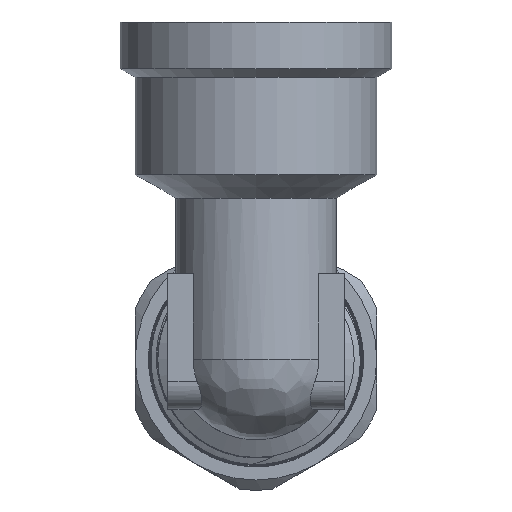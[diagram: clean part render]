
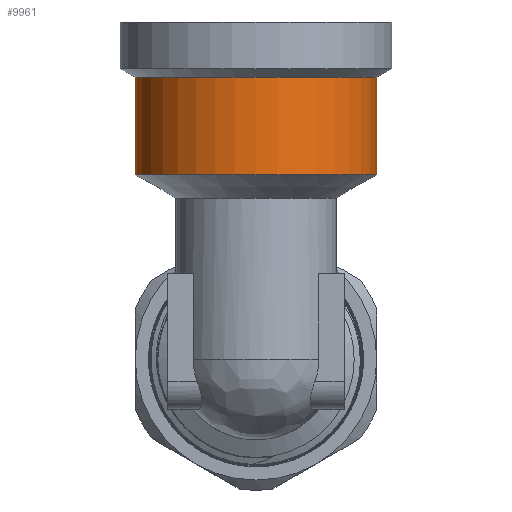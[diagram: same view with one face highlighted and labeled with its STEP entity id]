
A CAD part, front view. The second image highlights one B-rep face of the part: STEP entity #9961.
In plain terms, the highlighted cylindrical face has radius 12 mm (diameter 24 mm), a full revolution.
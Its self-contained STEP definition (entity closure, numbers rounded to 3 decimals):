
#1238=CYLINDRICAL_SURFACE('',#10649,12.);
#1340=FACE_OUTER_BOUND('',#1921,.T.);
#1921=EDGE_LOOP('',(#6791,#6792,#6793,#6794,#6795,#6796));
#2556=LINE('',#13148,#3215);
#3215=VECTOR('',#11286,12.);
#3885=CIRCLE('',#10650,12.);
#3886=CIRCLE('',#10651,12.);
#3887=CIRCLE('',#10652,12.);
#3888=CIRCLE('',#10653,12.);
#4141=VERTEX_POINT('',#13143);
#4142=VERTEX_POINT('',#13144);
#4143=VERTEX_POINT('',#13147);
#4144=VERTEX_POINT('',#13149);
#5204=EDGE_CURVE('',#4141,#4142,#3885,.T.);
#5205=EDGE_CURVE('',#4142,#4141,#3886,.T.);
#5206=EDGE_CURVE('',#4142,#4143,#2556,.T.);
#5207=EDGE_CURVE('',#4143,#4144,#3887,.T.);
#5208=EDGE_CURVE('',#4144,#4143,#3888,.T.);
#6791=ORIENTED_EDGE('',*,*,#5204,.F.);
#6792=ORIENTED_EDGE('',*,*,#5205,.F.);
#6793=ORIENTED_EDGE('',*,*,#5206,.T.);
#6794=ORIENTED_EDGE('',*,*,#5207,.T.);
#6795=ORIENTED_EDGE('',*,*,#5208,.T.);
#6796=ORIENTED_EDGE('',*,*,#5206,.F.);
#9961=ADVANCED_FACE('',(#1340),#1238,.T.);
#10649=AXIS2_PLACEMENT_3D('',#13142,#11280,#11281);
#10650=AXIS2_PLACEMENT_3D('',#13145,#11282,#11283);
#10651=AXIS2_PLACEMENT_3D('',#13146,#11284,#11285);
#10652=AXIS2_PLACEMENT_3D('',#13150,#11287,#11288);
#10653=AXIS2_PLACEMENT_3D('',#13151,#11289,#11290);
#11280=DIRECTION('center_axis',(0.,0.,1.));
#11281=DIRECTION('ref_axis',(0.,-1.,0.));
#11282=DIRECTION('center_axis',(0.,0.,1.));
#11283=DIRECTION('ref_axis',(1.,0.,0.));
#11284=DIRECTION('center_axis',(0.,0.,1.));
#11285=DIRECTION('ref_axis',(1.,0.,0.));
#11286=DIRECTION('',(0.,0.,-1.));
#11287=DIRECTION('center_axis',(0.,0.,1.));
#11288=DIRECTION('ref_axis',(1.,0.,0.));
#11289=DIRECTION('center_axis',(0.,0.,1.));
#11290=DIRECTION('ref_axis',(1.,0.,0.));
#13142=CARTESIAN_POINT('Origin',(0.,-28.,23.155));
#13143=CARTESIAN_POINT('',(0.,-40.,28.));
#13144=CARTESIAN_POINT('',(0.,-16.,28.));
#13145=CARTESIAN_POINT('Origin',(0.,-28.,28.));
#13146=CARTESIAN_POINT('Origin',(0.,-28.,28.));
#13147=CARTESIAN_POINT('',(0.,-16.,18.309));
#13148=CARTESIAN_POINT('',(0.,-16.,23.155));
#13149=CARTESIAN_POINT('',(0.,-40.,18.309));
#13150=CARTESIAN_POINT('Origin',(0.,-28.,18.309));
#13151=CARTESIAN_POINT('Origin',(0.,-28.,18.309));
